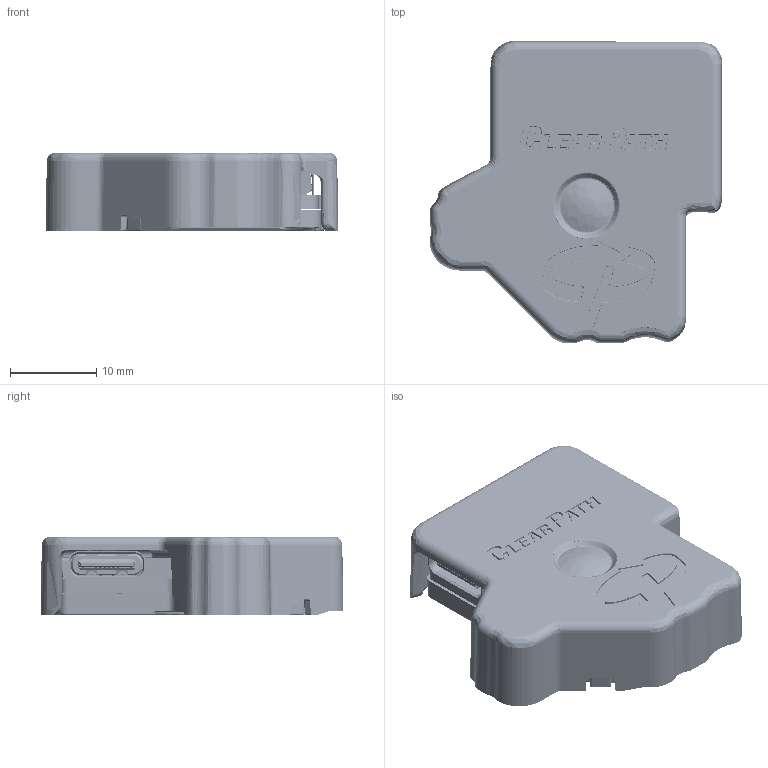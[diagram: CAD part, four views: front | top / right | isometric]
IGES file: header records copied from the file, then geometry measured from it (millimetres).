
Start section: SolidWorks IGES file using analytic representation for surfaces
Global section: file name: C:\TeknicPDM\EtherPath CPM-S\EtherPath CPM-S Customer Files\Dongle Customer Models\EtherPath CPM-S Dongle.IGS; native system: SolidWorks 2020; preprocessor: SolidWorks 2020; author: matt_ciminelli; date: 220608.084630; units: inch
Bounding box: 33.86 x 35.02 x 9.13 mm (x, y, z)
Surface area: 8274.3 mm2 (no closed solid volume)
Topology: 0 solids, 0 shells, 3691 faces, 27540 edges, 27443 vertices
Faces by surface type: bspline 2483, revolution 1208
